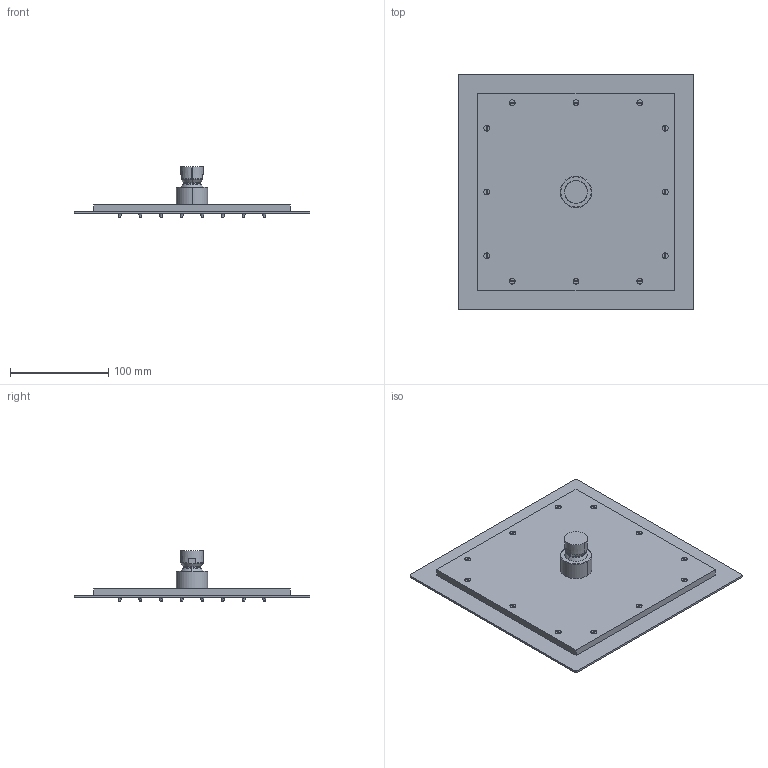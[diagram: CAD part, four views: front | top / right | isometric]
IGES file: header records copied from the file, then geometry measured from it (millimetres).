
Start section:  PTC IGES file: 90920.igs
Global section: file name: 90920.igs; native system: Creo Parametric by PTC Inc.; preprocessor: 2018100; author: carloff; organization: Unknown; date: 20210504.164015; units: millimetre
Bounding box: 240 x 240 x 51.8 mm (x, y, z)
Surface area: 134773.6 mm2 (no closed solid volume)
Topology: 0 solids, 0 shells, 526 faces, 2318 edges, 2318 vertices
Faces by surface type: revolution 341, bspline 185
